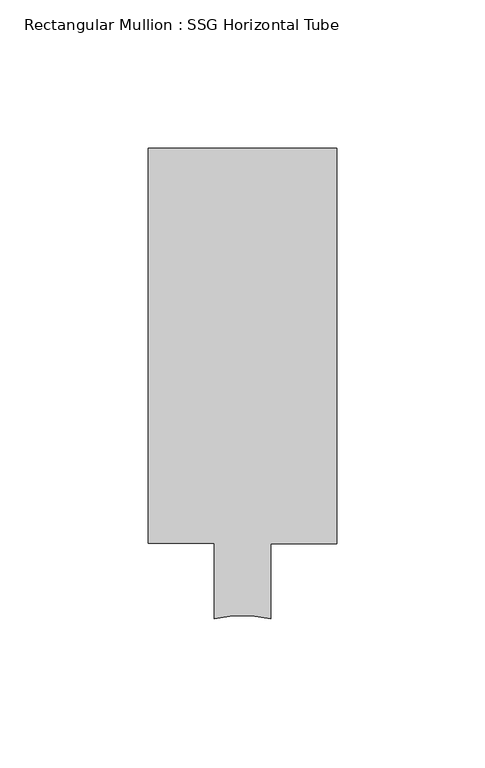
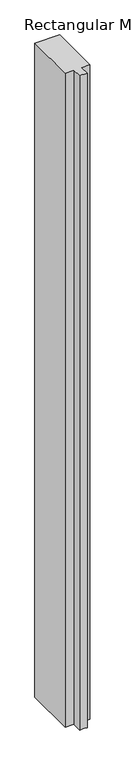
"""IFC4 building model written with IfcOpenShell, lengths in millimetres: member geometry, Rectangular Mullion : SSG Horizontal Tube."""

from ifc_helpers import new_model, si_unit, point, frame, frame_2d, origin, place, context, project, spatial, polyline, circle_curve, trimmed, segment, composite_curve, outline, extrude, source, transform, mapped, element, save


def rectangular_mullion_ssg_horizontal_tube_2a7c2b05(model_context):
    return source(origin(), model_context, "Body", "SweptSolid", [
        extrude(outline(composite_curve([segment(polyline([(31.7705663, 114.3), (31.7705663, -19.05), (9.5552592, -19.05), (9.5552592, -44.4572901)]), True, "CONTINUOUS"), segment(trimmed(circle_curve(frame_2d((0.020565, -81.9595202)), 38.6953183), [point((9.5552592, -44.4572901))], [point((-9.4947442, -44.4523669))], True, "CARTESIAN"), True, "CONTINUOUS"), segment(polyline([(-9.4947442, -44.4523669), (-9.4947442, -18.9488461), (-31.75, -18.9488461), (-31.75, 114.3), (31.7705663, 114.3)]), True, "CONTINUOUS")], self_intersect=False)), frame((0.0, 0.0, -1765.3), z_axis=(0.0, 0.0, 1.0), x_axis=(1.0, 0.0, 0.0)), (0.0, 0.0, 1.0), 1765.3),
    ])


if __name__ == "__main__":
    model = new_model("IFC4")
    model_context = context("Model", 3, world=origin())
    ifc_project = project(units=[si_unit("LENGTHUNIT", "METRE", prefix="MILLI")], contexts=[model_context])
    site = spatial("IfcSite", under=ifc_project)
    building = spatial("IfcBuilding", under=site)
    placement = place(None, origin())
    rectangular_mullion_ssg_horizontal_tube_shape = rectangular_mullion_ssg_horizontal_tube_2a7c2b05(model_context)
    element("IfcMember", 1, ObjectType="Rectangular Mullion : SSG Horizontal Tube", at=placement, inside=building, context=model_context, shape_type="MappedRepresentation", body=[
        mapped(rectangular_mullion_ssg_horizontal_tube_shape, transform((0.0, 0.0, 0.0), x_axis=(1.0, 0.0, 0.0), y_axis=(0.0, 1.0, 0.0), z_axis=(0.0, 0.0, 1.0))),
    ])
    save(model, "model.ifc")
